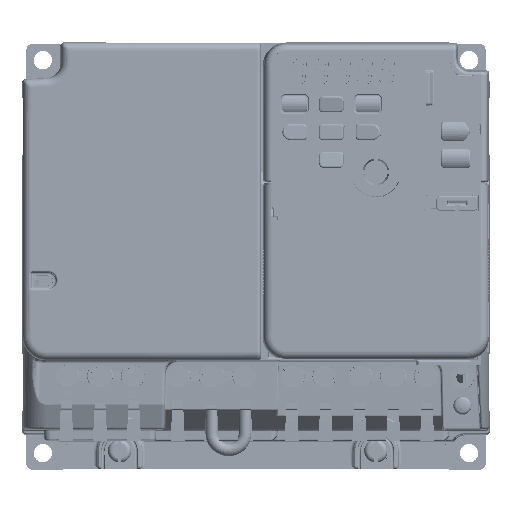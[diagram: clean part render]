
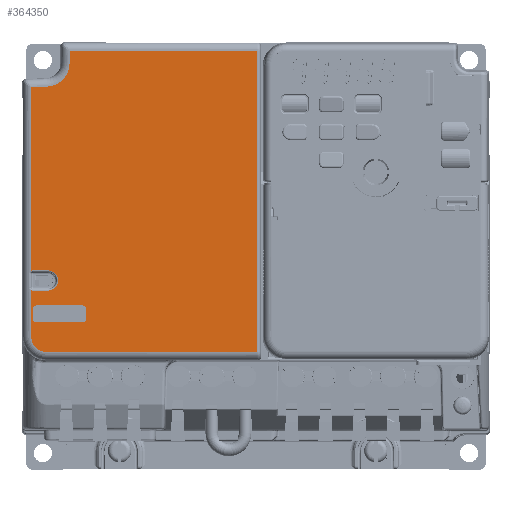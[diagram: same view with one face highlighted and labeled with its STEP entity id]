
A CAD part, top view. The second image highlights one B-rep face of the part: STEP entity #364350.
In plain terms, the highlighted planar face has unit normal (0, 0, 1).
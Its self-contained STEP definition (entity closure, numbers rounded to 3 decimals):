
#300934=CARTESIAN_POINT('',(-56.,125.5,
117.8));
#300936=DIRECTION('',(0.,-1.,0.));
#300937=VECTOR('',#300936,3.73);
#300938=CARTESIAN_POINT('',(-56.,125.5,
117.8));
#300939=LINE('',#300938,#300937);
#300944=DIRECTION('',(0.999,0.052,0.));
#300945=VECTOR('',#300944,4.873);
#300946=CARTESIAN_POINT('',(-67.5,114.525,117.8));
#300947=LINE('',#300946,#300945);
#300948=CARTESIAN_POINT('',(-63.,121.77,117.8));
#300949=DIRECTION('',(0.,0.,1.));
#300950=DIRECTION('',(0.052,-0.999,0.));
#300951=AXIS2_PLACEMENT_3D('',#300948,#300949,#300950);
#300953=CARTESIAN_POINT('',(-63.,39.6,117.8));
#300954=DIRECTION('',(0.,0.,-1.));
#300955=DIRECTION('',(0.,-1.,0.));
#300956=AXIS2_PLACEMENT_3D('',#300953,#300954,#300955);
#300958=CARTESIAN_POINT('',(-62.5,56.5,117.8));
#300959=DIRECTION('',(0.,0.,1.));
#300960=DIRECTION('',(0.,-1.,0.));
#300961=AXIS2_PLACEMENT_3D('',#300958,#300959,#300960);
#300963=DIRECTION('',(0.,-1.,0.));
#300964=VECTOR('',#300963,3.);
#300965=CARTESIAN_POINT('',(-67.,48.,117.8));
#300966=LINE('',#300965,#300964);
#300967=CARTESIAN_POINT('',(-66.,45.,117.8));
#300968=DIRECTION('',(0.,0.,1.));
#300969=DIRECTION('',(-1.,0.,0.));
#300970=AXIS2_PLACEMENT_3D('',#300967,#300968,#300969);
#300972=DIRECTION('',(1.,0.,0.));
#300973=VECTOR('',#300972,14.);
#300974=CARTESIAN_POINT('',(-66.,44.,117.8));
#300975=LINE('',#300974,#300973);
#300976=CARTESIAN_POINT('',(-52.,45.,117.8));
#300977=DIRECTION('',(0.,0.,1.));
#300978=DIRECTION('',(0.,-1.,0.));
#300979=AXIS2_PLACEMENT_3D('',#300976,#300977,#300978);
#300981=DIRECTION('',(0.,1.,0.));
#300982=VECTOR('',#300981,3.);
#300983=CARTESIAN_POINT('',(-51.,45.,117.8));
#300984=LINE('',#300983,#300982);
#300985=CARTESIAN_POINT('',(-52.,48.,117.8));
#300986=DIRECTION('',(0.,0.,1.));
#300987=DIRECTION('',(1.,0.,0.));
#300988=AXIS2_PLACEMENT_3D('',#300985,#300986,#300987);
#300990=DIRECTION('',(-1.,0.,0.));
#300991=VECTOR('',#300990,14.);
#300992=CARTESIAN_POINT('',(-52.,49.,117.8));
#300993=LINE('',#300992,#300991);
#300994=CARTESIAN_POINT('',(-66.,48.,117.8));
#300995=DIRECTION('',(0.,0.,1.));
#300996=DIRECTION('',(0.,1.,0.));
#300997=AXIS2_PLACEMENT_3D('',#300994,#300995,#300996);
#300999=CARTESIAN_POINT('',(-67.5,59.414,117.8));
#301000=CARTESIAN_POINT('',(-67.452,59.439,
117.8));
#301001=CARTESIAN_POINT('',(-67.353,59.482,
117.8));
#301002=CARTESIAN_POINT('',(-67.194,59.522,
117.8));
#301003=CARTESIAN_POINT('',(-67.086,59.531,
117.8));
#301004=CARTESIAN_POINT('',(-67.031,59.531,
117.8));
#301011=DIRECTION('',(1.,0.,0.));
#301012=VECTOR('',#301011,4.531);
#301013=CARTESIAN_POINT('',(-67.031,59.531,
117.8));
#301014=LINE('',#301013,#301012);
#301060=DIRECTION('',(-1.,0.,0.));
#301061=VECTOR('',#301060,4.531);
#301062=CARTESIAN_POINT('',(-62.5,53.469,117.8));
#301063=LINE('',#301062,#301061);
#301064=CARTESIAN_POINT('',(-67.031,53.469,
117.8));
#301065=CARTESIAN_POINT('',(-67.086,53.469,
117.8));
#301066=CARTESIAN_POINT('',(-67.194,53.478,
117.8));
#301067=CARTESIAN_POINT('',(-67.353,53.518,
117.8));
#301068=CARTESIAN_POINT('',(-67.452,53.561,
117.8));
#301069=CARTESIAN_POINT('',(-67.5,53.586,
117.8));
#301104=DIRECTION('',(0.,-1.,0.));
#301105=VECTOR('',#301104,13.986);
#301106=CARTESIAN_POINT('',(-67.5,53.586,
117.8));
#301107=LINE('',#301106,#301105);
#301121=DIRECTION('',(0.,-1.,0.));
#301122=VECTOR('',#301121,55.111);
#301123=CARTESIAN_POINT('',(-67.5,114.525,117.8));
#301124=LINE('',#301123,#301122);
#312999=DIRECTION('',(1.,0.,0.));
#313000=VECTOR('',#312999,63.378);
#313001=CARTESIAN_POINT('',(-63.,35.1,117.8));
#313002=LINE('',#313001,#313000);
#313017=DIRECTION('',(0.,1.,0.));
#313018=VECTOR('',#313017,90.4);
#313019=CARTESIAN_POINT('',(0.378,35.1,
117.8));
#313020=LINE('',#313019,#313018);
#313039=DIRECTION('',(-1.,0.,0.));
#313040=VECTOR('',#313039,56.378);
#313041=CARTESIAN_POINT('',(0.378,125.5,
117.8));
#313042=LINE('',#313041,#313040);
#344947=VERTEX_POINT('',#300934);
#344948=CARTESIAN_POINT('',(-56.,121.77,117.8));
#344949=VERTEX_POINT('',#344948);
#344952=VERTEX_POINT('',#300999);
#344953=VERTEX_POINT('',#301004);
#344954=CARTESIAN_POINT('',(-67.5,114.525,117.8));
#344955=VERTEX_POINT('',#344954);
#344956=CARTESIAN_POINT('',(-62.634,114.78,117.8));
#344957=VERTEX_POINT('',#344956);
#344958=CARTESIAN_POINT('',(0.378,125.5,
117.8));
#344959=VERTEX_POINT('',#344958);
#344960=CARTESIAN_POINT('',(0.378,35.1,
117.8));
#344961=VERTEX_POINT('',#344960);
#344962=CARTESIAN_POINT('',(-63.,35.1,117.8));
#344963=VERTEX_POINT('',#344962);
#344964=CARTESIAN_POINT('',(-67.5,39.6,117.8));
#344965=VERTEX_POINT('',#344964);
#344966=CARTESIAN_POINT('',(-67.5,53.586,
117.8));
#344967=VERTEX_POINT('',#344966);
#344968=VERTEX_POINT('',#301064);
#344969=CARTESIAN_POINT('',(-62.5,53.469,117.8));
#344970=VERTEX_POINT('',#344969);
#344971=CARTESIAN_POINT('',(-62.5,59.531,117.8));
#344972=VERTEX_POINT('',#344971);
#344973=CARTESIAN_POINT('',(-67.,48.,117.8));
#344974=CARTESIAN_POINT('',(-67.,45.,117.8));
#344975=VERTEX_POINT('',#344973);
#344976=VERTEX_POINT('',#344974);
#344977=CARTESIAN_POINT('',(-66.,44.,117.8));
#344978=VERTEX_POINT('',#344977);
#344979=CARTESIAN_POINT('',(-52.,44.,117.8));
#344980=VERTEX_POINT('',#344979);
#344981=CARTESIAN_POINT('',(-51.,45.,117.8));
#344982=VERTEX_POINT('',#344981);
#344983=CARTESIAN_POINT('',(-51.,48.,117.8));
#344984=VERTEX_POINT('',#344983);
#344985=CARTESIAN_POINT('',(-52.,49.,117.8));
#344986=VERTEX_POINT('',#344985);
#344987=CARTESIAN_POINT('',(-66.,49.,117.8));
#344988=VERTEX_POINT('',#344987);
#364298=CARTESIAN_POINT('',(0.,0.,117.8));
#364299=DIRECTION('',(0.,0.,1.));
#364300=DIRECTION('',(1.,0.,0.));
#364301=AXIS2_PLACEMENT_3D('',#364298,#364299,#364300);
#364302=PLANE('',#364301);
#364304=ORIENTED_EDGE('',*,*,#364303,.F.);
#364306=ORIENTED_EDGE('',*,*,#364305,.F.);
#364308=ORIENTED_EDGE('',*,*,#364307,.T.);
#364310=ORIENTED_EDGE('',*,*,#364309,.T.);
#364311=ORIENTED_EDGE('',*,*,#364289,.F.);
#364313=ORIENTED_EDGE('',*,*,#364312,.F.);
#364315=ORIENTED_EDGE('',*,*,#364314,.F.);
#364317=ORIENTED_EDGE('',*,*,#364316,.F.);
#364319=ORIENTED_EDGE('',*,*,#364318,.T.);
#364321=ORIENTED_EDGE('',*,*,#364320,.F.);
#364323=ORIENTED_EDGE('',*,*,#364322,.F.);
#364325=ORIENTED_EDGE('',*,*,#364324,.F.);
#364327=ORIENTED_EDGE('',*,*,#364326,.T.);
#364329=ORIENTED_EDGE('',*,*,#364328,.F.);
#364330=EDGE_LOOP('',(#364304,#364306,#364308,#364310,#364311,#364313,#364315,
#364317,#364319,#364321,#364323,#364325,#364327,#364329));
#364331=FACE_OUTER_BOUND('',#364330,.F.);
#364333=ORIENTED_EDGE('',*,*,#364332,.T.);
#364335=ORIENTED_EDGE('',*,*,#364334,.T.);
#364337=ORIENTED_EDGE('',*,*,#364336,.T.);
#364339=ORIENTED_EDGE('',*,*,#364338,.T.);
#364341=ORIENTED_EDGE('',*,*,#364340,.T.);
#364343=ORIENTED_EDGE('',*,*,#364342,.T.);
#364345=ORIENTED_EDGE('',*,*,#364344,.T.);
#364347=ORIENTED_EDGE('',*,*,#364346,.T.);
#364348=EDGE_LOOP('',(#364333,#364335,#364337,#364339,#364341,#364343,#364345,
#364347));
#364349=FACE_BOUND('',#364348,.F.);
#364350=ADVANCED_FACE('',(#364331,#364349),#364302,.T.);
#300952=CIRCLE('',#300951,7.);
#300957=CIRCLE('',#300956,4.5);
#300962=CIRCLE('',#300961,3.031);
#300971=CIRCLE('',#300970,1.);
#300980=CIRCLE('',#300979,1.);
#300989=CIRCLE('',#300988,1.);
#300998=CIRCLE('',#300997,1.);
#301005=B_SPLINE_CURVE_WITH_KNOTS('',3,(#300999,#301000,#301001,#301002,#301003,
#301004),.UNSPECIFIED.,.F.,.F.,(4,1,1,4),(0.,0.333,
0.667,1.),.UNSPECIFIED.);
#301070=B_SPLINE_CURVE_WITH_KNOTS('',3,(#301064,#301065,#301066,#301067,#301068,
#301069),.UNSPECIFIED.,.F.,.F.,(4,1,1,4),(0.,0.333,
0.667,1.),.UNSPECIFIED.);
#364289=EDGE_CURVE('',#344947,#344949,#300939,.T.);
#364303=EDGE_CURVE('',#344952,#344953,#301005,.T.);
#364305=EDGE_CURVE('',#344955,#344952,#301124,.T.);
#364307=EDGE_CURVE('',#344955,#344957,#300947,.T.);
#364309=EDGE_CURVE('',#344957,#344949,#300952,.T.);
#364312=EDGE_CURVE('',#344959,#344947,#313042,.T.);
#364314=EDGE_CURVE('',#344961,#344959,#313020,.T.);
#364316=EDGE_CURVE('',#344963,#344961,#313002,.T.);
#364318=EDGE_CURVE('',#344963,#344965,#300957,.T.);
#364320=EDGE_CURVE('',#344967,#344965,#301107,.T.);
#364322=EDGE_CURVE('',#344968,#344967,#301070,.T.);
#364324=EDGE_CURVE('',#344970,#344968,#301063,.T.);
#364326=EDGE_CURVE('',#344970,#344972,#300962,.T.);
#364328=EDGE_CURVE('',#344953,#344972,#301014,.T.);
#364332=EDGE_CURVE('',#344975,#344976,#300966,.T.);
#364334=EDGE_CURVE('',#344976,#344978,#300971,.T.);
#364336=EDGE_CURVE('',#344978,#344980,#300975,.T.);
#364338=EDGE_CURVE('',#344980,#344982,#300980,.T.);
#364340=EDGE_CURVE('',#344982,#344984,#300984,.T.);
#364342=EDGE_CURVE('',#344984,#344986,#300989,.T.);
#364344=EDGE_CURVE('',#344986,#344988,#300993,.T.);
#364346=EDGE_CURVE('',#344988,#344975,#300998,.T.);
